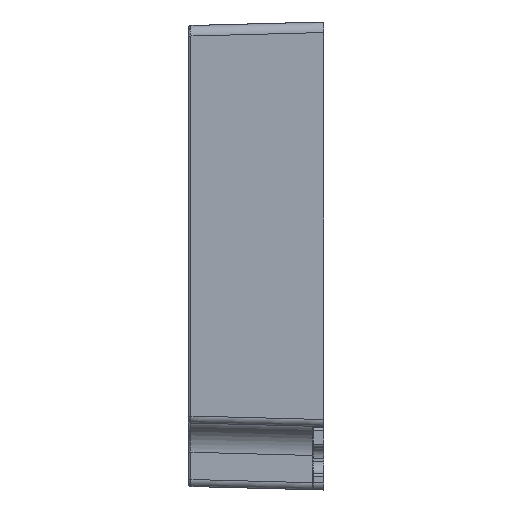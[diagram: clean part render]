
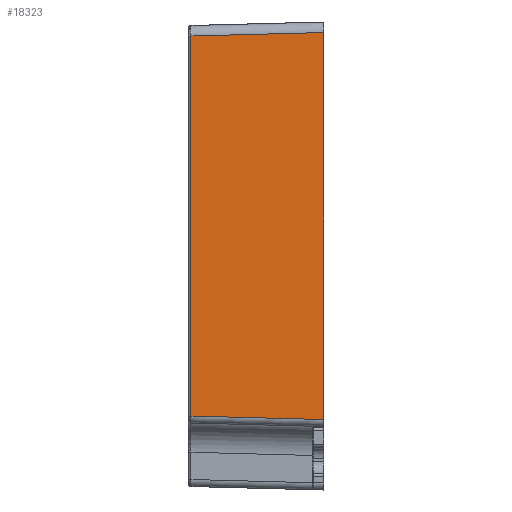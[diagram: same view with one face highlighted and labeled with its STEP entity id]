
A CAD part, left-side view. The second image highlights one B-rep face of the part: STEP entity #18323.
In plain terms, the highlighted planar face has unit normal (-1, 0.026, 0).
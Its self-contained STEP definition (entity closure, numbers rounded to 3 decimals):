
#4872 = VECTOR ( 'NONE', #121031, 1000. ) ;
#5768 = DIRECTION ( 'NONE',  ( -0.026, -1., 0. ) ) ;
#8012 = LINE ( 'NONE', #67325, #63879 ) ;
#8215 = ORIENTED_EDGE ( 'NONE', *, *, #40154, .T. ) ;
#11839 = CARTESIAN_POINT ( 'NONE',  ( -62.595, 11.313, 37.606 ) ) ;
#15551 = VECTOR ( 'NONE', #53026, 1000. ) ;
#18323 = ADVANCED_FACE ( 'NONE', ( #67426 ), #74164, .T. ) ;
#19722 = AXIS2_PLACEMENT_3D ( 'NONE', #114108, #35656, #5768 ) ;
#25649 = ORIENTED_EDGE ( 'NONE', *, *, #90422, .T. ) ;
#26959 = CARTESIAN_POINT ( 'NONE',  ( -62.595, 11.313, -27.356 ) ) ;
#28296 = VERTEX_POINT ( 'NONE', #26959 ) ;
#35491 = ORIENTED_EDGE ( 'NONE', *, *, #90994, .T. ) ;
#35656 = DIRECTION ( 'NONE',  ( -1., 0.026, 0. ) ) ;
#39432 = CARTESIAN_POINT ( 'NONE',  ( -63.19, -11.4, -27.95 ) ) ;
#40154 = EDGE_CURVE ( 'NONE', #40775, #102051, #107405, .T. ) ;
#40775 = VERTEX_POINT ( 'NONE', #119428 ) ;
#41946 = LINE ( 'NONE', #42526, #15551 ) ;
#42526 = CARTESIAN_POINT ( 'NONE',  ( -63.143, -9.623, -27.904 ) ) ;
#48525 = DIRECTION ( 'NONE',  ( 0., 0., 1. ) ) ;
#50365 = EDGE_CURVE ( 'NONE', #80755, #40775, #8012, .T. ) ;
#53026 = DIRECTION ( 'NONE',  ( -0.026, -0.999, -0.026 ) ) ;
#61011 = EDGE_LOOP ( 'NONE', ( #8215, #25649, #35491, #107218 ) ) ;
#63879 = VECTOR ( 'NONE', #48525, 1000. ) ;
#67325 = CARTESIAN_POINT ( 'NONE',  ( -63.19, -11.4, 40. ) ) ;
#67426 = FACE_OUTER_BOUND ( 'NONE', #61011, .T. ) ;
#70138 = VECTOR ( 'NONE', #99166, 1000. ) ;
#74164 = PLANE ( 'NONE',  #19722 ) ;
#80755 = VERTEX_POINT ( 'NONE', #39432 ) ;
#90422 = EDGE_CURVE ( 'NONE', #102051, #28296, #123164, .T. ) ;
#90994 = EDGE_CURVE ( 'NONE', #28296, #80755, #41946, .T. ) ;
#99166 = DIRECTION ( 'NONE',  ( 0.026, 0.999, -0.026 ) ) ;
#102051 = VERTEX_POINT ( 'NONE', #11839 ) ;
#107218 = ORIENTED_EDGE ( 'NONE', *, *, #50365, .T. ) ;
#107405 = LINE ( 'NONE', #128678, #70138 ) ;
#110162 = CARTESIAN_POINT ( 'NONE',  ( -62.595, 11.313, -27.343 ) ) ;
#114108 = CARTESIAN_POINT ( 'NONE',  ( -63.19, -11.4, 40. ) ) ;
#119428 = CARTESIAN_POINT ( 'NONE',  ( -63.19, -11.4, 38.201 ) ) ;
#121031 = DIRECTION ( 'NONE',  ( 0., 0., -1. ) ) ;
#123164 = LINE ( 'NONE', #110162, #4872 ) ;
#128678 = CARTESIAN_POINT ( 'NONE',  ( -63.191, -11.447, 38.202 ) ) ;
